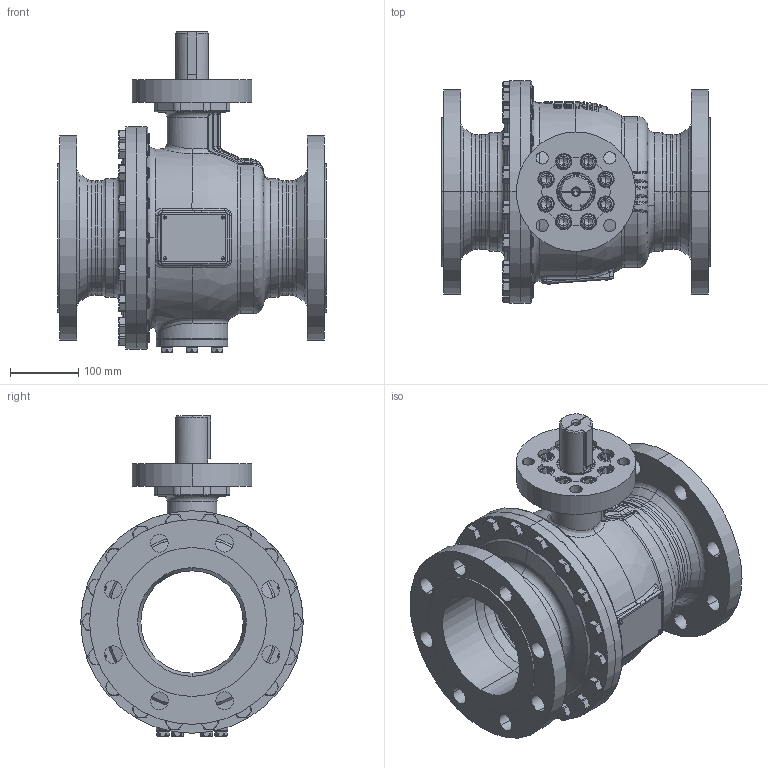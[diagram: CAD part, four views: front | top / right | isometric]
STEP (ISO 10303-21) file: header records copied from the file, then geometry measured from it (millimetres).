
FILE_DESCRIPTION((''),'2;1');
FILE_NAME('KHI-F_150_PN025-F14-P_SW0001','2026-02-05T10:57:23',('fischerkl'),('KLINGER'),'CREO PARAMETRIC BY PTC INC, 2023014','CREO PARAMETRIC BY PTC INC, 2023014','');
FILE_SCHEMA(('CONFIG_CONTROL_DESIGN'));
Products named in the file (1): KHI-F_150_PN025-F14-P_SW0001
Bounding box: 394 x 326 x 469.2 mm (x, y, z)
Volume: 8808907.8 mm3; surface area: 1600025.8 mm2
Topology: 1 solids, 4 shells, 3724 faces, 9564 edges, 5969 vertices
Faces by surface type: plane 2283, cylinder 680, cone 362, torus 258, bspline 113, sphere 28
Entity records: 144686 total; most frequent: CARTESIAN_POINT 56460, ORIENTED_EDGE 19076, DIRECTION 17435, EDGE_CURVE 9538, AXIS2_PLACEMENT_3D 6146, VERTEX_POINT 5969, VECTOR 5143, LINE 5143
